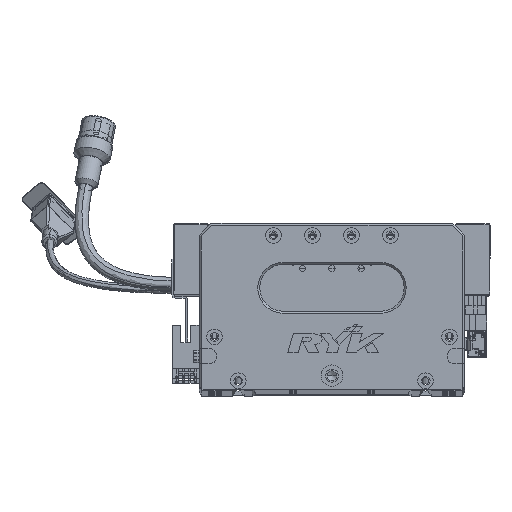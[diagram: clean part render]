
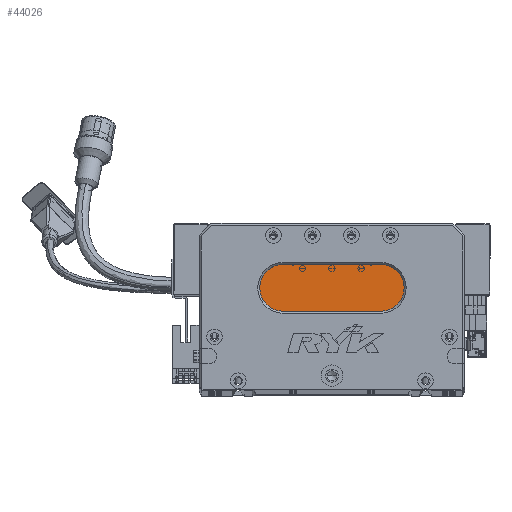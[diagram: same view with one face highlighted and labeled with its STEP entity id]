
A CAD part, top view. The second image highlights one B-rep face of the part: STEP entity #44026.
In plain terms, the highlighted planar face has unit normal (0, 0, 1) as drawn and (0, 0, -1) by its records, which use the part's own axes.
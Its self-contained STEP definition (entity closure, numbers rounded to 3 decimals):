
#6602 = EDGE_CURVE ( 'NONE', #51466, #19314, #88389, .T. ) ;
#9746 = CARTESIAN_POINT ( 'NONE',  ( 93., 40., 13. ) ) ;
#11701 = AXIS2_PLACEMENT_3D ( 'NONE', #71857, #88169, #89554 ) ;
#12249 = LINE ( 'NONE', #94545, #71554 ) ;
#12334 = DIRECTION ( 'NONE',  ( -1., 0., 0. ) ) ;
#14368 = CIRCLE ( 'NONE', #11701, 12. ) ;
#16122 = ORIENTED_EDGE ( 'NONE', *, *, #92603, .T. ) ;
#18704 = DIRECTION ( 'NONE',  ( -1., 0., 0. ) ) ;
#19049 = DIRECTION ( 'NONE',  ( 0., 0., -1. ) ) ;
#19314 = VERTEX_POINT ( 'NONE', #24424 ) ;
#19348 = ORIENTED_EDGE ( 'NONE', *, *, #41892, .T. ) ;
#21910 = PLANE ( 'NONE',  #22297 ) ;
#22297 = AXIS2_PLACEMENT_3D ( 'NONE', #87971, #29115, #95156 ) ;
#24424 = CARTESIAN_POINT ( 'NONE',  ( 43., 40., 13. ) ) ;
#28404 = ORIENTED_EDGE ( 'NONE', *, *, #31303, .T. ) ;
#28830 = DIRECTION ( 'NONE',  ( 1., 0., 0. ) ) ;
#29115 = DIRECTION ( 'NONE',  ( 0., 0., -1. ) ) ;
#30401 = FACE_OUTER_BOUND ( 'NONE', #102297, .T. ) ;
#31144 = AXIS2_PLACEMENT_3D ( 'NONE', #101655, #19049, #18704 ) ;
#31303 = EDGE_CURVE ( 'NONE', #104768, #51466, #14368, .T. ) ;
#34274 = VERTEX_POINT ( 'NONE', #82126 ) ;
#41892 = EDGE_CURVE ( 'NONE', #46592, #34274, #55350, .T. ) ;
#44026 = ADVANCED_FACE ( 'NONE', ( #30401 ), #21910, .T. ) ;
#46592 = VERTEX_POINT ( 'NONE', #58699 ) ;
#48874 = EDGE_CURVE ( 'NONE', #19314, #46592, #88471, .T. ) ;
#51328 = CARTESIAN_POINT ( 'NONE',  ( 93., 64., 13. ) ) ;
#51466 = VERTEX_POINT ( 'NONE', #9746 ) ;
#54782 = VECTOR ( 'NONE', #12334, 1000. ) ;
#55350 = CIRCLE ( 'NONE', #31144, 12. ) ;
#57151 = ORIENTED_EDGE ( 'NONE', *, *, #48874, .T. ) ;
#58699 = CARTESIAN_POINT ( 'NONE',  ( 31., 52., 13. ) ) ;
#71554 = VECTOR ( 'NONE', #28830, 1000. ) ;
#71857 = CARTESIAN_POINT ( 'NONE',  ( 93., 52., 13. ) ) ;
#82126 = CARTESIAN_POINT ( 'NONE',  ( 43., 64., 13. ) ) ;
#84163 = ORIENTED_EDGE ( 'NONE', *, *, #6602, .T. ) ;
#85609 = CARTESIAN_POINT ( 'NONE',  ( 93., 40., 13. ) ) ;
#87971 = CARTESIAN_POINT ( 'NONE',  ( 93., 52., 13. ) ) ;
#88109 = DIRECTION ( 'NONE',  ( 0., 0., -1. ) ) ;
#88169 = DIRECTION ( 'NONE',  ( 0., 0., -1. ) ) ;
#88389 = LINE ( 'NONE', #85609, #54782 ) ;
#88471 = CIRCLE ( 'NONE', #90460, 12. ) ;
#89554 = DIRECTION ( 'NONE',  ( -1., 0., 0. ) ) ;
#90460 = AXIS2_PLACEMENT_3D ( 'NONE', #103927, #88109, #96359 ) ;
#92603 = EDGE_CURVE ( 'NONE', #34274, #104768, #12249, .T. ) ;
#94545 = CARTESIAN_POINT ( 'NONE',  ( 93., 64., 13. ) ) ;
#95156 = DIRECTION ( 'NONE',  ( -1., 0., 0. ) ) ;
#96359 = DIRECTION ( 'NONE',  ( -1., 0., 0. ) ) ;
#101655 = CARTESIAN_POINT ( 'NONE',  ( 43., 52., 13. ) ) ;
#102297 = EDGE_LOOP ( 'NONE', ( #28404, #84163, #57151, #19348, #16122 ) ) ;
#103927 = CARTESIAN_POINT ( 'NONE',  ( 43., 52., 13. ) ) ;
#104768 = VERTEX_POINT ( 'NONE', #51328 ) ;
